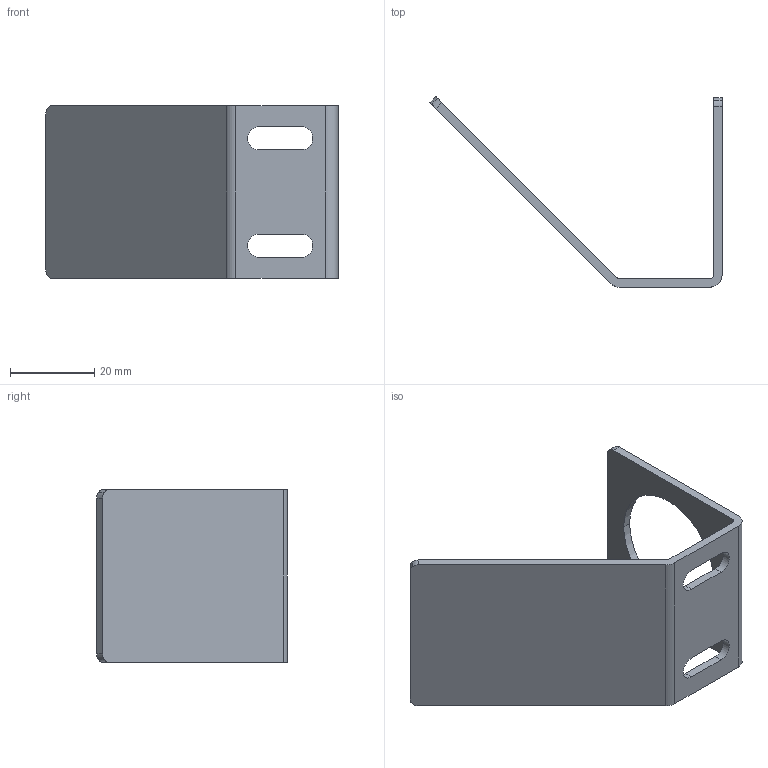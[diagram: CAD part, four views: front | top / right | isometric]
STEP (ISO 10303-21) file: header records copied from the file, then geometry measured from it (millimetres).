
FILE_DESCRIPTION((''),'2;1');
FILE_NAME('C:\Dokumente und Einstellungen\Kramp\Eigene Dateien\Microsonic Nacharbeit 2\STP\UF90_M30.stp','2005-08-10T11:37:08',('Kramp'),(''),'Autodesk Inventor 7','Autodesk Inventor 7','');
FILE_SCHEMA(('AUTOMOTIVE_DESIGN { 1 0 10303 214 1 1 1 1 }'));
Length unit declared in the file: millimetre
Products named in the file (1): UF90_M30
Bounding box: 69.4 x 45.27 x 41 mm (x, y, z)
Volume: 8825.4 mm3; surface area: 9835.4 mm2
Topology: 1 solids, 1 shells, 32 faces, 90 edges, 60 vertices
Faces by surface type: cylinder 18, plane 14
Entity records: 1085 total; most frequent: DIRECTION 192, CARTESIAN_POINT 183, ORIENTED_EDGE 180, EDGE_CURVE 90, AXIS2_PLACEMENT_3D 69, VERTEX_POINT 60, VECTOR 54, LINE 54
